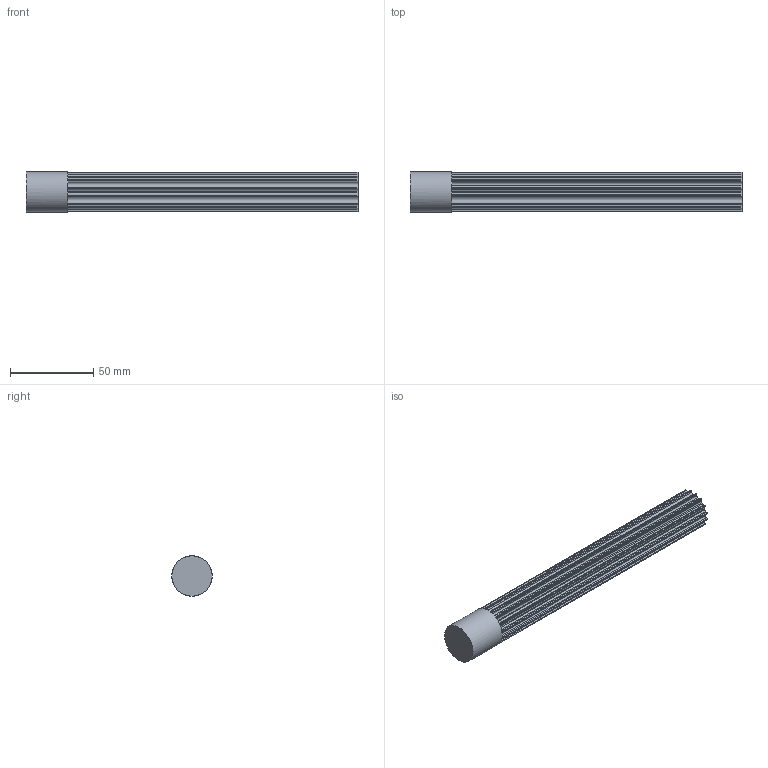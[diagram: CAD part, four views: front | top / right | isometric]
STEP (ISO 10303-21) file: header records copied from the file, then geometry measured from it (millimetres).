
FILE_DESCRIPTION( ( 'STEP AP214' ), '1' );
FILE_NAME( 'C:/Users/StangenbergN/Desktop/Steps Zahnriemenräder/K166_HTD-Zahnwellen/17291600.stp', '2019-06-06T09:40:56', ( '' ), ( '' ), ' ', 'PARTsolutions', ' ' );
FILE_SCHEMA( ( 'AUTOMOTIVE_DESIGN { 1 0 10303 214 1 1 1 1 }' ) );
Length unit declared in the file: millimetre
Products named in the file (1): _17291600
Bounding box: 200 x 24.32 x 24.32 mm (x, y, z)
Volume: 76527.2 mm3; surface area: 21206.8 mm2
Topology: 1 solids, 1 shells, 131 faces, 387 edges, 258 vertices
Faces by surface type: plane 66, cylinder 65
Full cylindrical faces by diameter (mm): 24.32 x1
Entity records: 5492 total; most frequent: DIRECTION 810, CARTESIAN_POINT 774, ORIENTED_EDGE 770, EDGE_CURVE 385, AXIS2_PLACEMENT_3D 293, VERTEX_POINT 257, LINE 224, VECTOR 224
